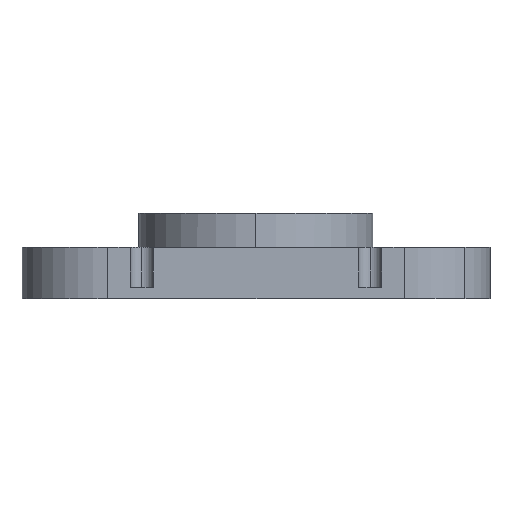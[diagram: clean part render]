
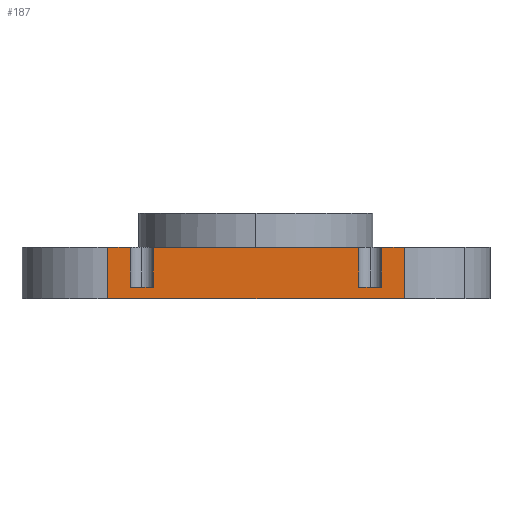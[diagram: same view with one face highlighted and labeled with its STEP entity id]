
A CAD part, left-side view. The second image highlights one B-rep face of the part: STEP entity #187.
In plain terms, the highlighted planar face has unit normal (-1, 0, 0).
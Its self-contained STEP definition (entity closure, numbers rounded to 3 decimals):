
#187=ADVANCED_FACE('',(#494),#495,.T.);
#494=FACE_OUTER_BOUND('',#945,.T.);
#495=PLANE('',#946);
#945=EDGE_LOOP('',(#1451,#1452,#1453,#1454,#1455,#1456,#1457,#1458,#1459,#1460,#1461,#1462));
#946=AXIS2_PLACEMENT_3D('',#1463,#1464,#1465);
#1451=ORIENTED_EDGE('',*,*,#2763,.T.);
#1452=ORIENTED_EDGE('',*,*,#2764,.T.);
#1453=ORIENTED_EDGE('',*,*,#2710,.T.);
#1454=ORIENTED_EDGE('',*,*,#2765,.T.);
#1455=ORIENTED_EDGE('',*,*,#2766,.F.);
#1456=ORIENTED_EDGE('',*,*,#2767,.T.);
#1457=ORIENTED_EDGE('',*,*,#2760,.T.);
#1458=ORIENTED_EDGE('',*,*,#2768,.T.);
#1459=ORIENTED_EDGE('',*,*,#2769,.T.);
#1460=ORIENTED_EDGE('',*,*,#2770,.T.);
#1461=ORIENTED_EDGE('',*,*,#2771,.T.);
#1462=ORIENTED_EDGE('',*,*,#2772,.T.);
#1463=CARTESIAN_POINT('',(-107.0,0.,0.0));
#1464=DIRECTION('',(-1.0,0.0,0.0));
#1465=DIRECTION('',(0.0,-1.0,0.0));
#2710=EDGE_CURVE('',#3254,#3251,#3255,.T.);
#2760=EDGE_CURVE('',#3341,#3339,#3342,.T.);
#2763=EDGE_CURVE('',#3345,#3346,#3347,.T.);
#2764=EDGE_CURVE('',#3346,#3254,#3348,.T.);
#2765=EDGE_CURVE('',#3251,#3349,#3350,.T.);
#2766=EDGE_CURVE('',#3351,#3349,#3352,.T.);
#2767=EDGE_CURVE('',#3351,#3341,#3353,.T.);
#2768=EDGE_CURVE('',#3339,#3354,#3355,.T.);
#2769=EDGE_CURVE('',#3354,#3356,#3357,.T.);
#2770=EDGE_CURVE('',#3356,#3358,#3359,.T.);
#2771=EDGE_CURVE('',#3358,#3360,#3361,.T.);
#2772=EDGE_CURVE('',#3360,#3345,#3362,.T.);
#3251=VERTEX_POINT('',#4057);
#3254=VERTEX_POINT('',#4061);
#3255=LINE('',#4062,#4063);
#3339=VERTEX_POINT('',#4172);
#3341=VERTEX_POINT('',#4174);
#3342=LINE('',#4175,#4176);
#3345=VERTEX_POINT('',#4179);
#3346=VERTEX_POINT('',#4180);
#3347=LINE('',#4181,#4182);
#3348=LINE('',#4183,#4184);
#3349=VERTEX_POINT('',#4185);
#3350=LINE('',#4186,#4187);
#3351=VERTEX_POINT('',#4188);
#3352=LINE('',#4189,#4190);
#3353=LINE('',#4191,#4192);
#3354=VERTEX_POINT('',#4193);
#3355=LINE('',#4194,#4195);
#3356=VERTEX_POINT('',#4196);
#3357=LINE('',#4197,#4198);
#3358=VERTEX_POINT('',#4199);
#3359=LINE('',#4200,#4201);
#3360=VERTEX_POINT('',#4202);
#3361=LINE('',#4203,#4204);
#3362=LINE('',#4205,#4206);
#4057=CARTESIAN_POINT('',(-107.0,22.0,9.0));
#4061=CARTESIAN_POINT('',(-107.0,22.0,2.));
#4062=CARTESIAN_POINT('',(-107.0,22.0,1.));
#4063=VECTOR('',#5103,1.0);
#4172=CARTESIAN_POINT('',(-107.0,-26.,9.0));
#4174=CARTESIAN_POINT('',(-107.0,-26.,0.0));
#4175=CARTESIAN_POINT('',(-107.0,-26.,0.0));
#4176=VECTOR('',#5171,1.0);
#4179=CARTESIAN_POINT('',(-107.0,18.0,9.0));
#4180=CARTESIAN_POINT('',(-107.0,18.0,2.));
#4181=CARTESIAN_POINT('',(-107.0,18.0,1.));
#4182=VECTOR('',#5175,1.0);
#4183=CARTESIAN_POINT('',(-107.0,10.0,2.));
#4184=VECTOR('',#5176,1.0);
#4185=CARTESIAN_POINT('',(-107.0,26.0,9.0));
#4186=CARTESIAN_POINT('',(-107.0,26.0,9.0));
#4187=VECTOR('',#5177,1.0);
#4188=CARTESIAN_POINT('',(-107.0,26.0,0.0));
#4189=CARTESIAN_POINT('',(-107.0,26.0,0.0));
#4190=VECTOR('',#5178,1.0);
#4191=CARTESIAN_POINT('',(-107.0,26.0,0.0));
#4192=VECTOR('',#5179,1.0);
#4193=CARTESIAN_POINT('',(-107.0,-22.,9.0));
#4194=CARTESIAN_POINT('',(-107.0,26.0,9.0));
#4195=VECTOR('',#5180,1.0);
#4196=CARTESIAN_POINT('',(-107.0,-22.,2.));
#4197=CARTESIAN_POINT('',(-107.0,-22.,1.));
#4198=VECTOR('',#5181,1.0);
#4199=CARTESIAN_POINT('',(-107.0,-18.,2.));
#4200=CARTESIAN_POINT('',(-107.,-10.,2.));
#4201=VECTOR('',#5182,1.0);
#4202=CARTESIAN_POINT('',(-107.0,-18.,9.0));
#4203=CARTESIAN_POINT('',(-107.0,-18.,1.));
#4204=VECTOR('',#5183,1.0);
#4205=CARTESIAN_POINT('',(-107.0,26.0,9.0));
#4206=VECTOR('',#5184,1.0);
#5103=DIRECTION('',(0.0,0.,1.0));
#5171=DIRECTION('',(0.0,0.0,1.0));
#5175=DIRECTION('',(0.0,0.,-1.0));
#5176=DIRECTION('',(0.0,1.0,0.));
#5177=DIRECTION('',(0.0,1.0,0.0));
#5178=DIRECTION('',(0.0,0.0,1.0));
#5179=DIRECTION('',(0.0,-1.0,0.0));
#5180=DIRECTION('',(0.0,1.0,0.0));
#5181=DIRECTION('',(0.0,0.,-1.0));
#5182=DIRECTION('',(0.0,1.0,0.));
#5183=DIRECTION('',(0.0,0.,1.0));
#5184=DIRECTION('',(0.0,1.0,0.0));
